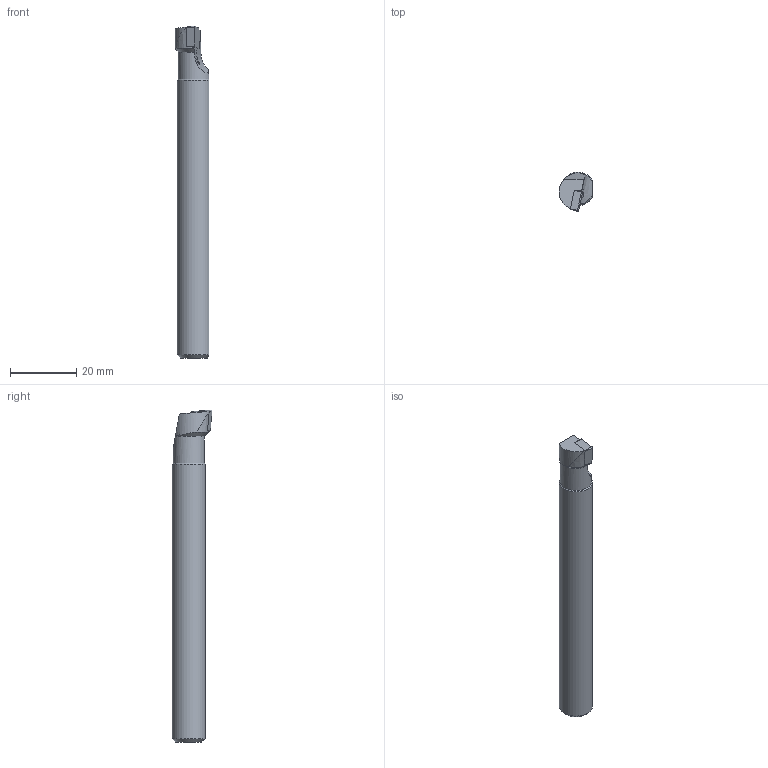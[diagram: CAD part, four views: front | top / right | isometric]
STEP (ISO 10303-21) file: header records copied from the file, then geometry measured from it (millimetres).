
FILE_DESCRIPTION(/* description */ (''),/* implementation_level */ '2;1');
FILE_NAME(/* name */ 'A10H-SCLCR-06-HAAS.stp',/* time_stamp */ '2021-09-29T09:10:32+09:00',/* author */ (''),/* organization */ (''),/* preprocessor_version */ 'ST-DEVELOPER v16.7',/* originating_system */ 'SIEMENS PLM Software NX 1946',/* authorisation */ '');
FILE_SCHEMA (('AUTOMOTIVE_DESIGN { 1 0 10303 214 3 1 1 1 }'));
Length unit declared in the file: millimetre
Products named in the file (1): user0130CD5E65n1
Bounding box: 10.13 x 12 x 99.98 mm (x, y, z)
Volume: 6769.7 mm3; surface area: 4138.3 mm2
Topology: 2 solids, 2 shells, 28 faces, 69 edges, 46 vertices
Faces by surface type: plane 13, cone 9, cylinder 6
Full cylindrical faces by diameter (mm): 2 x1, 3 x1
Entity records: 915 total; most frequent: CARTESIAN_POINT 231, DIRECTION 134, ORIENTED_EDGE 128, EDGE_CURVE 64, AXIS2_PLACEMENT_3D 54, VERTEX_POINT 44, EDGE_LOOP 34, ADVANCED_FACE 28
